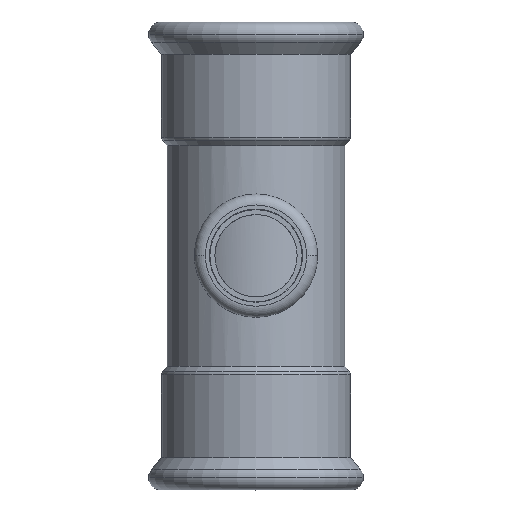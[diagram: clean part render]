
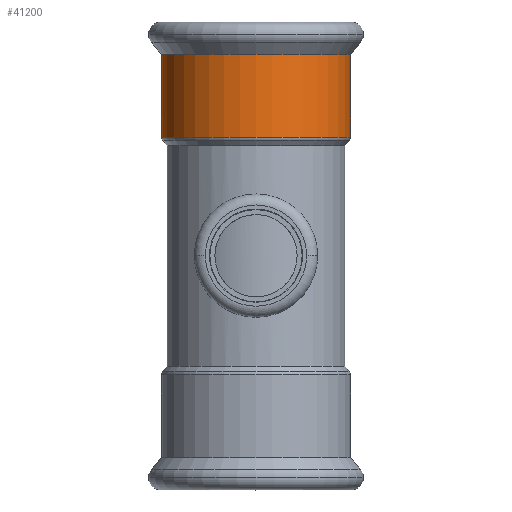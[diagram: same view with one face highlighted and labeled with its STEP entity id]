
A CAD part, top view. The second image highlights one B-rep face of the part: STEP entity #41200.
In plain terms, the highlighted cylindrical face has radius 28.7 mm (diameter 57.4 mm), a partial arc.
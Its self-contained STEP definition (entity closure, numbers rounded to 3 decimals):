
#18640=CARTESIAN_POINT('',(-433.006,2.173,
61.246));
#18650=VERTEX_POINT('',#18640);
#18830=CARTESIAN_POINT('',(-375.606,2.173,
61.246));
#18840=VERTEX_POINT('',#18830);
#18870=CARTESIAN_POINT('',(-404.306,2.173,
61.246));
#18880=DIRECTION('',(0.,0.,1.));
#18890=DIRECTION('',(1.,0.,0.));
#18900=AXIS2_PLACEMENT_3D('',#18870,#18880,#18890);
#18910=CIRCLE('',#18900,28.7);
#33440=CARTESIAN_POINT('',(-375.606,2.173,
36.072));
#33450=VERTEX_POINT('',#33440);
#33550=CARTESIAN_POINT('',(-433.006,2.173,36.072)
);
#33560=VERTEX_POINT('',#33550);
#33590=CARTESIAN_POINT('',(-404.306,2.173,
36.072));
#33600=DIRECTION('',(0.,0.,1.));
#33610=DIRECTION('',(-1.,0.,0.));
#33620=AXIS2_PLACEMENT_3D('',#33590,#33600,#33610);
#33630=CIRCLE('',#33620,28.7);
#33690=CARTESIAN_POINT('',(-404.306,2.173,
48.35));
#33700=DIRECTION('',(0.,0.,-1.));
#33710=DIRECTION('',(1.,0.,0.));
#33720=AXIS2_PLACEMENT_3D('',#33690,#33700,#33710);
#33730=CYLINDRICAL_SURFACE('',#33720,28.7);
#33740=CARTESIAN_POINT('',(-375.606,2.173,
48.35));
#33750=DIRECTION('',(0.,0.,-1.));
#33760=VECTOR('',#33750,1.);
#33770=LINE('',#33740,#33760);
#33780=EDGE_CURVE('',#18840,#33450,#33770,.T.);
#33810=CARTESIAN_POINT('',(-433.006,2.173,
48.35));
#33820=DIRECTION('',(0.,0.,-1.));
#33830=VECTOR('',#33820,1.);
#33840=LINE('',#33810,#33830);
#33850=EDGE_CURVE('',#18650,#33560,#33840,.T.);
#39080=EDGE_CURVE('',#18840,#18650,#18910,.T.);
#41130=ORIENTED_EDGE('',*,*,#39080,.F.);
#41140=ORIENTED_EDGE('',*,*,#33850,.F.);
#41150=EDGE_CURVE('',#33450,#33560,#33630,.T.);
#41160=ORIENTED_EDGE('',*,*,#41150,.T.);
#41170=ORIENTED_EDGE('',*,*,#33780,.T.);
#41180=EDGE_LOOP('',(#41170,#41160,#41140,#41130));
#41190=FACE_OUTER_BOUND('',#41180,.T.);
#41200=ADVANCED_FACE('',(#41190),#33730,.T.);
